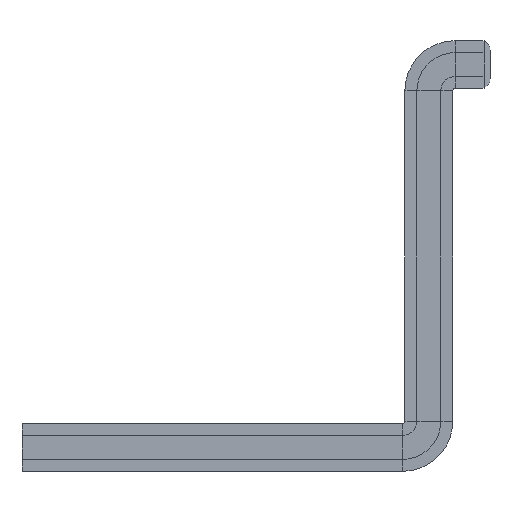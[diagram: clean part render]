
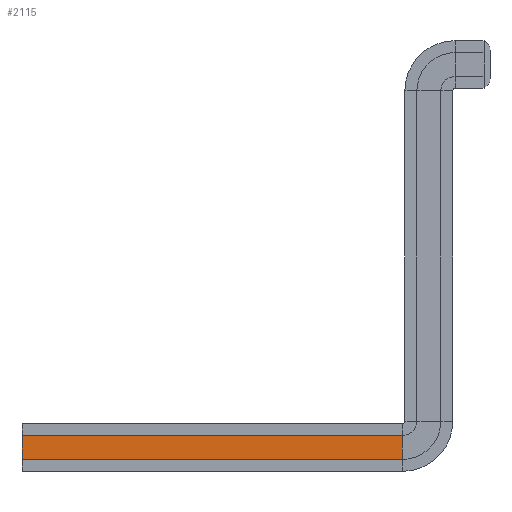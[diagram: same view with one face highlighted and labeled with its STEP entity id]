
A CAD part, front view. The second image highlights one B-rep face of the part: STEP entity #2115.
In plain terms, the highlighted planar face has unit normal (0, -1, 0).
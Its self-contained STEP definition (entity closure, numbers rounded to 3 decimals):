
#8 = EDGE_CURVE ( 'NONE', #1761, #2035, #497, .T. ) ;
#76 = PLANE ( 'NONE',  #1383 ) ;
#87 = CARTESIAN_POINT ( 'NONE',  ( -13.064, 0.637, -55.219 ) ) ;
#88 = VERTEX_POINT ( 'NONE', #87 ) ;
#205 = CARTESIAN_POINT ( 'NONE',  ( -13.064, 0.637, -45.219 ) ) ;
#229 = CARTESIAN_POINT ( 'NONE',  ( 145.936, 0.637, -45.219 ) ) ;
#316 = CARTESIAN_POINT ( 'NONE',  ( 145.936, 0.637, -55.219 ) ) ;
#403 = ORIENTED_EDGE ( 'NONE', *, *, #687, .F. ) ;
#484 = VECTOR ( 'NONE', #888, 1000. ) ;
#497 = LINE ( 'NONE', #1860, #1244 ) ;
#551 = CARTESIAN_POINT ( 'NONE',  ( 145.936, 0.637, -55.219 ) ) ;
#625 = EDGE_CURVE ( 'NONE', #88, #2035, #1203, .T. ) ;
#687 = EDGE_CURVE ( 'NONE', #1496, #88, #1882, .T. ) ;
#703 = EDGE_LOOP ( 'NONE', ( #859, #1486, #403, #2140 ) ) ;
#859 = ORIENTED_EDGE ( 'NONE', *, *, #8, .T. ) ;
#888 = DIRECTION ( 'NONE',  ( 0., 0., 1. ) ) ;
#912 = CARTESIAN_POINT ( 'NONE',  ( 145.936, 0.637, -55.219 ) ) ;
#1031 = EDGE_CURVE ( 'NONE', #1496, #1761, #1743, .T. ) ;
#1065 = DIRECTION ( 'NONE',  ( 0., 0., -1. ) ) ;
#1190 = CARTESIAN_POINT ( 'NONE',  ( -13.064, 0.637, -55.219 ) ) ;
#1203 = LINE ( 'NONE', #1190, #484 ) ;
#1228 = DIRECTION ( 'NONE',  ( 0., -1., 0. ) ) ;
#1244 = VECTOR ( 'NONE', #1374, 1000. ) ;
#1356 = VECTOR ( 'NONE', #1725, 1000. ) ;
#1358 = DIRECTION ( 'NONE',  ( -1., 0., 0. ) ) ;
#1374 = DIRECTION ( 'NONE',  ( -1., 0., 0. ) ) ;
#1383 = AXIS2_PLACEMENT_3D ( 'NONE', #551, #1228, #1065 ) ;
#1408 = VECTOR ( 'NONE', #1358, 1000. ) ;
#1486 = ORIENTED_EDGE ( 'NONE', *, *, #625, .F. ) ;
#1496 = VERTEX_POINT ( 'NONE', #316 ) ;
#1589 = FACE_OUTER_BOUND ( 'NONE', #703, .T. ) ;
#1719 = CARTESIAN_POINT ( 'NONE',  ( 145.936, 0.637, -55.219 ) ) ;
#1725 = DIRECTION ( 'NONE',  ( 0., 0., 1. ) ) ;
#1743 = LINE ( 'NONE', #912, #1356 ) ;
#1761 = VERTEX_POINT ( 'NONE', #229 ) ;
#1860 = CARTESIAN_POINT ( 'NONE',  ( 145.936, 0.637, -45.219 ) ) ;
#1882 = LINE ( 'NONE', #1719, #1408 ) ;
#2035 = VERTEX_POINT ( 'NONE', #205 ) ;
#2115 = ADVANCED_FACE ( 'NONE', ( #1589 ), #76, .T. ) ;
#2140 = ORIENTED_EDGE ( 'NONE', *, *, #1031, .T. ) ;
